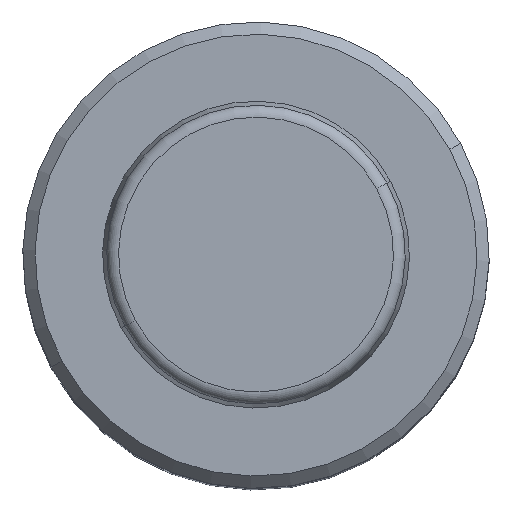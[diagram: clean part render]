
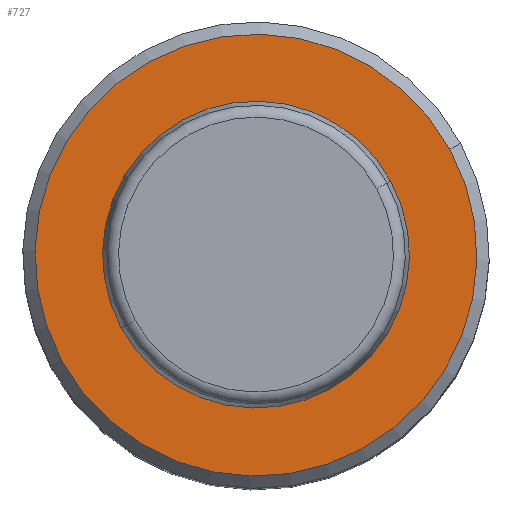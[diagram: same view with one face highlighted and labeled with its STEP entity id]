
A CAD part, top view. The second image highlights one B-rep face of the part: STEP entity #727.
In plain terms, the highlighted planar face has unit normal (0, 0, 1).
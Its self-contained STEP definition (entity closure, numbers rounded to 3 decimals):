
#499=CARTESIAN_POINT('Axis2P3D Location',(0.,0.,79.)) ;
#503=CARTESIAN_POINT('Vertex',(15.796,8.63,79.)) ;
#505=CARTESIAN_POINT('Vertex',(-15.796,-8.63,79.)) ;
#534=CARTESIAN_POINT('Axis2P3D Location',(0.,0.,79.)) ;
#718=CARTESIAN_POINT('Axis2P3D Location',(18.,0.,79.)) ;
#500=DIRECTION('Axis2P3D Direction',(0.,0.,-1.)) ;
#535=DIRECTION('Axis2P3D Direction',(0.,0.,-1.)) ;
#719=DIRECTION('Axis2P3D Direction',(0.,0.,1.)) ;
#720=DIRECTION('Axis2P3D XDirection',(1.,0.,0.)) ;
#501=AXIS2_PLACEMENT_3D('Circle Axis2P3D',#499,#500,$) ;
#536=AXIS2_PLACEMENT_3D('Circle Axis2P3D',#534,#535,$) ;
#721=AXIS2_PLACEMENT_3D('Plane Axis2P3D',#718,#719,#720) ;
#724=ORIENTED_EDGE('',*,*,#507,.T.) ;
#725=ORIENTED_EDGE('',*,*,#538,.T.) ;
#727=ADVANCED_FACE('',(#726),#722,.T.) ;
#502=CIRCLE('generated circle',#501,18.) ;
#537=CIRCLE('generated circle',#536,18.) ;
#507=EDGE_CURVE('',#504,#506,#502,.F.) ;
#538=EDGE_CURVE('',#506,#504,#537,.F.) ;
#723=EDGE_LOOP('',(#724,#725)) ;
#726=FACE_OUTER_BOUND('',#723,.T.) ;
#722=PLANE('Plane',#721) ;
#504=VERTEX_POINT('',#503) ;
#506=VERTEX_POINT('',#505) ;
